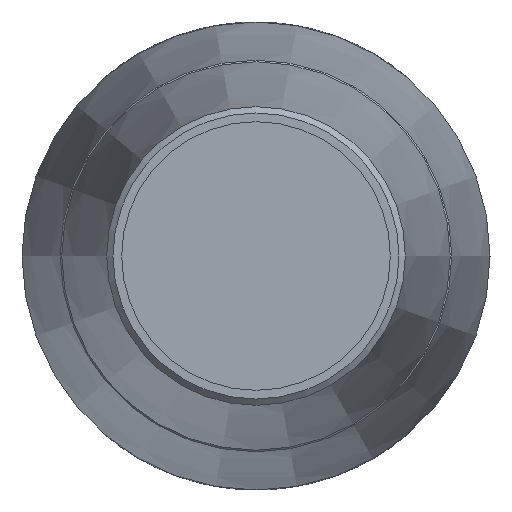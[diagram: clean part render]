
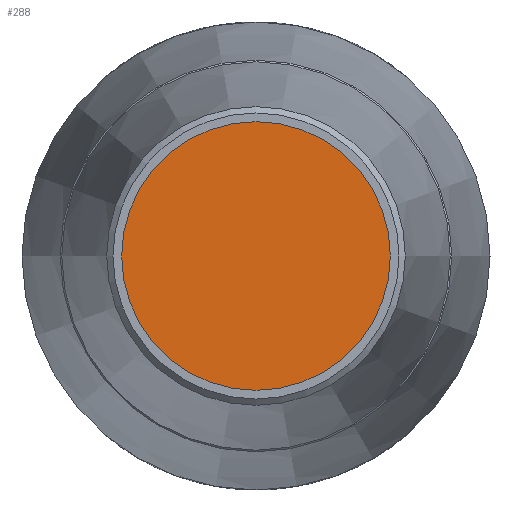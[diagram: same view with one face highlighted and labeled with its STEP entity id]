
A CAD part, left-side view. The second image highlights one B-rep face of the part: STEP entity #288.
In plain terms, the highlighted planar face has unit normal (-1, 0, 0).
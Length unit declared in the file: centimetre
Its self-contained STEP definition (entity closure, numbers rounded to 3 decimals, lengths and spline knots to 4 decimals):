
#42=PLANE('',#323);
#73=FACE_OUTER_BOUND('',#104,.T.);
#104=EDGE_LOOP('',(#210));
#132=CIRCLE('',#322,4.65);
#148=VERTEX_POINT('',#455);
#172=EDGE_CURVE('',#148,#148,#132,.T.);
#210=ORIENTED_EDGE('',*,*,#172,.T.);
#288=ADVANCED_FACE('',(#73),#42,.T.);
#322=AXIS2_PLACEMENT_3D('',#456,#383,#384);
#323=AXIS2_PLACEMENT_3D('',#457,#385,#386);
#383=DIRECTION('center_axis',(-1.,0.,0.));
#384=DIRECTION('ref_axis',(0.,0.,1.));
#385=DIRECTION('center_axis',(-1.,0.,0.));
#386=DIRECTION('ref_axis',(0.,0.,1.));
#455=CARTESIAN_POINT('',(-44.5,-4.65,0.));
#456=CARTESIAN_POINT('Origin',(-44.5,0.,0.));
#457=CARTESIAN_POINT('Origin',(-44.5,0.,0.));
